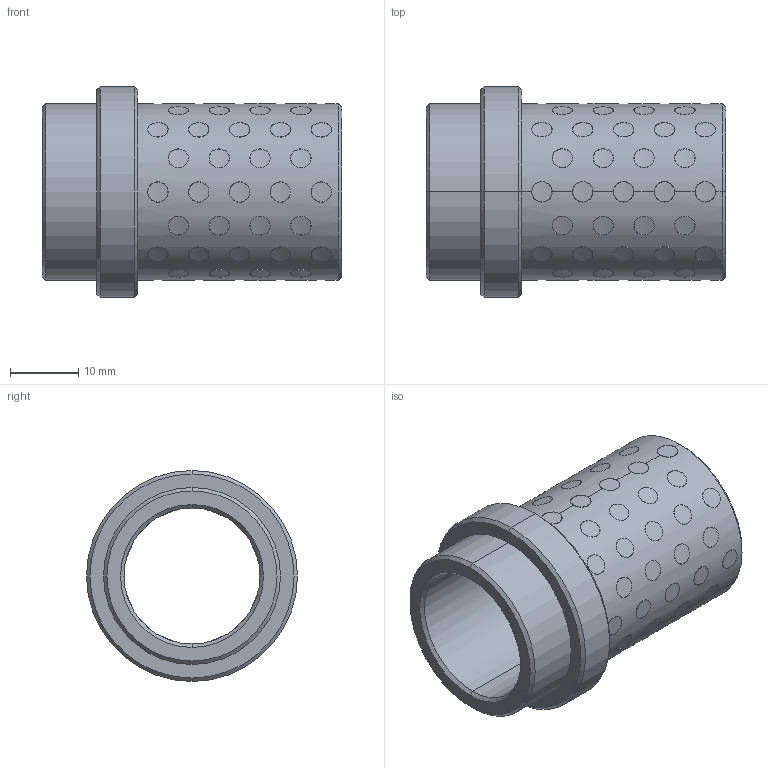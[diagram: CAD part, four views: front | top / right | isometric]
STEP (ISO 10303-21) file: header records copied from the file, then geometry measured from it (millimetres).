
FILE_DESCRIPTION((''),'2;1');
FILE_NAME('G31220036','2017-12-30T',('MANU'),(''),'PRO/ENGINEER BY PARAMETRIC TECHNOLOGY CORPORATION, 2012130','PRO/ENGINEER BY PARAMETRIC TECHNOLOGY CORPORATION, 2012130','');
FILE_SCHEMA(('CONFIG_CONTROL_DESIGN'));
Length unit declared in the file: millimetre
Products named in the file (1): G31220036
Bounding box: 44 x 31 x 31 mm (x, y, z)
Volume: 10770 mm3; surface area: 11212.8 mm2
Topology: 73 solids, 73 shells, 456 faces, 972 edges, 644 vertices
Faces by surface type: cylinder 440, cone 12, plane 4
Entity records: 20578 total; most frequent: CARTESIAN_POINT 11668, ORIENTED_EDGE 1944, DIRECTION 1296, EDGE_CURVE 972, VERTEX_POINT 644, B_SPLINE_CURVE_WITH_KNOTS 616, EDGE_LOOP 584, AXIS2_PLACEMENT_3D 484
